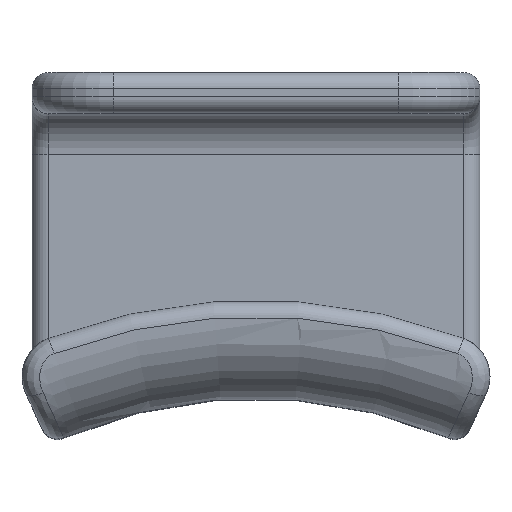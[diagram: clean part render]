
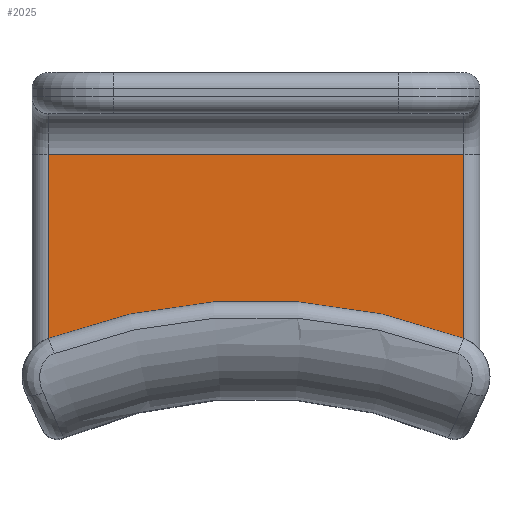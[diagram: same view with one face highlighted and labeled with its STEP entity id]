
A CAD part, top view. The second image highlights one B-rep face of the part: STEP entity #2025.
In plain terms, the highlighted planar face has unit normal (0, 0, 1).
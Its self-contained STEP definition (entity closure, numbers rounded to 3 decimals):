
#118 = LINE ( 'NONE', #1116, #777 ) ;
#182 = ORIENTED_EDGE ( 'NONE', *, *, #2659, .T. ) ;
#443 = CARTESIAN_POINT ( 'NONE',  ( 25.5, 90., 0. ) ) ;
#530 = DIRECTION ( 'NONE',  ( 0., 0., 1. ) ) ;
#643 = ORIENTED_EDGE ( 'NONE', *, *, #3516, .T. ) ;
#729 = VERTEX_POINT ( 'NONE', #443 ) ;
#777 = VECTOR ( 'NONE', #3349, 1000. ) ;
#829 = DIRECTION ( 'NONE',  ( 1., 0., 0. ) ) ;
#879 = LINE ( 'NONE', #2586, #1423 ) ;
#940 = VERTEX_POINT ( 'NONE', #3470 ) ;
#966 = DIRECTION ( 'NONE',  ( -1., 0., 0. ) ) ;
#980 = VECTOR ( 'NONE', #1544, 1000. ) ;
#1048 = EDGE_LOOP ( 'NONE', ( #3294, #3393, #182, #643 ) ) ;
#1111 = CARTESIAN_POINT ( 'NONE',  ( 25.5, 65.19, 0. ) ) ;
#1116 = CARTESIAN_POINT ( 'NONE',  ( 25.5, 90., 0. ) ) ;
#1165 = AXIS2_PLACEMENT_3D ( 'NONE', #2437, #530, #3079 ) ;
#1423 = VECTOR ( 'NONE', #966, 1000. ) ;
#1544 = DIRECTION ( 'NONE',  ( 0., -1., 0. ) ) ;
#1826 = LINE ( 'NONE', #3476, #980 ) ;
#1939 = EDGE_CURVE ( 'NONE', #940, #3477, #1826, .T. ) ;
#1993 = CARTESIAN_POINT ( 'NONE',  ( -25.5, 65.19, 0. ) ) ;
#2025 = ADVANCED_FACE ( 'NONE', ( #2691 ), #3714, .T. ) ;
#2105 = CIRCLE ( 'NONE', #2133, 70. ) ;
#2133 = AXIS2_PLACEMENT_3D ( 'NONE', #2762, #2774, #829 ) ;
#2437 = CARTESIAN_POINT ( 'NONE',  ( 0., 0., 0. ) ) ;
#2586 = CARTESIAN_POINT ( 'NONE',  ( 0., 90., 0. ) ) ;
#2659 = EDGE_CURVE ( 'NONE', #3477, #2983, #2105, .T. ) ;
#2691 = FACE_OUTER_BOUND ( 'NONE', #1048, .T. ) ;
#2762 = CARTESIAN_POINT ( 'NONE',  ( 0., 0., 0. ) ) ;
#2774 = DIRECTION ( 'NONE',  ( 0., 0., -1. ) ) ;
#2983 = VERTEX_POINT ( 'NONE', #1111 ) ;
#3079 = DIRECTION ( 'NONE',  ( 1., 0., 0. ) ) ;
#3294 = ORIENTED_EDGE ( 'NONE', *, *, #3864, .T. ) ;
#3349 = DIRECTION ( 'NONE',  ( 0., 1., 0. ) ) ;
#3393 = ORIENTED_EDGE ( 'NONE', *, *, #1939, .T. ) ;
#3470 = CARTESIAN_POINT ( 'NONE',  ( -25.5, 90., 0. ) ) ;
#3476 = CARTESIAN_POINT ( 'NONE',  ( -25.5, 0., 0. ) ) ;
#3477 = VERTEX_POINT ( 'NONE', #1993 ) ;
#3516 = EDGE_CURVE ( 'NONE', #2983, #729, #118, .T. ) ;
#3714 = PLANE ( 'NONE',  #1165 ) ;
#3864 = EDGE_CURVE ( 'NONE', #729, #940, #879, .T. ) ;
